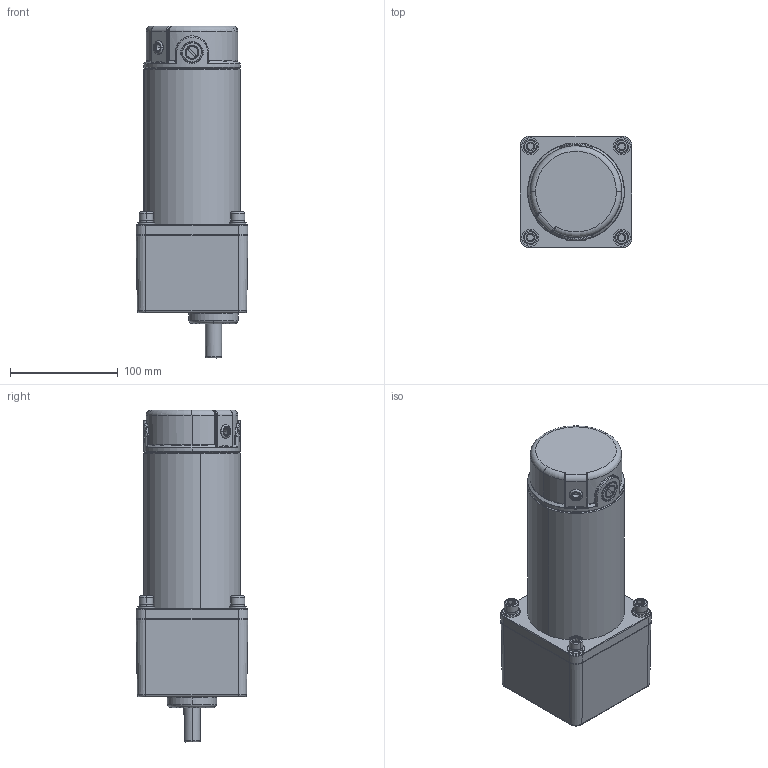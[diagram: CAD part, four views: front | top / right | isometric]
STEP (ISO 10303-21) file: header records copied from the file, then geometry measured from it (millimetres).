
FILE_DESCRIPTION (( 'STEP AP203' ), '1' );
FILE_NAME ('100饜6GU喘謫眊-145儂褲.STEP', '2021-07-12T07:53:11', ( '' ), ( '' ), 'SwSTEP 2.0', 'SolidWorks 2021', '' );
FILE_SCHEMA (( 'CONFIG_CONTROL_DESIGN' ));
Length unit declared in the file: millimetre
Products named in the file (10): LUO-M8; TAN; PING-M8; LUO; PRT0001_1; TAN-M8; 100饜6GU喘謫眊-145儂褲; H; 100; JK
Assembly tree (20 placements, depth 2):
  100饜6GU喘謫眊-145儂褲
    LUO-M8  x4
    H
    TAN-M8  x4
    PING-M8  x4
    LUO  x2
    TAN  x2
    JK
    PRT0001_1
    100
Bounding box: 104 x 104 x 308.5 mm (x, y, z)
Volume: 1068201.4 mm3; surface area: 216784.2 mm2
Topology: 23 solids, 23 shells, 688 faces, 1603 edges, 989 vertices
Faces by surface type: cylinder 220, cone 195, plane 169, bspline 53, torus 47, sphere 4
Entity records: 23224 total; most frequent: CARTESIAN_POINT 11544, ORIENTED_EDGE 2184, DIRECTION 2091, EDGE_CURVE 1092, AXIS2_PLACEMENT_3D 857, VERTEX_POINT 678, EDGE_LOOP 526, FACE_OUTER_BOUND 465
